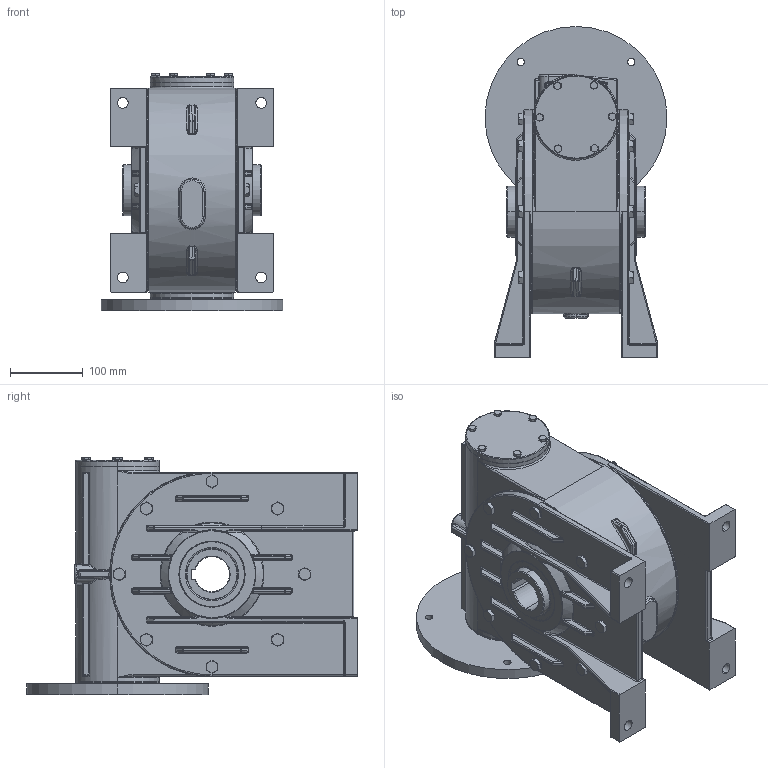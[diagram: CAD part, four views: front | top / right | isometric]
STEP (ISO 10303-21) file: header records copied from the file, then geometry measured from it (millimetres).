
FILE_DESCRIPTION (( 'STEP AP203' ), '1' );
FILE_NAME ('3F002439.STEP', '2012-07-24T06:18:32', ( 'Amministratore' ), ( 'SerteK sas' ), 'SwSTEP 2.0', 'SolidWorks 2009', '' );
FILE_SCHEMA (( 'CONFIG_CONTROL_DESIGN' ));
Products named in the file (1): 3F002439
Bounding box: 250 x 455 x 326.05 mm (x, y, z)
Surface area: 1106461.5 mm2 (no closed solid volume)
Topology: 0 solids, 31 shells, 2329 faces, 5561 edges, 3352 vertices
Faces by surface type: cylinder 845, bspline 566, plane 524, cone 394
Entity records: 118522 total; most frequent: CARTESIAN_POINT 68958, ORIENTED_EDGE 10900, DIRECTION 9440, EDGE_CURVE 5470, AXIS2_PLACEMENT_3D 3856, VERTEX_POINT 3352, EDGE_LOOP 2572, FACE_OUTER_BOUND 2329
